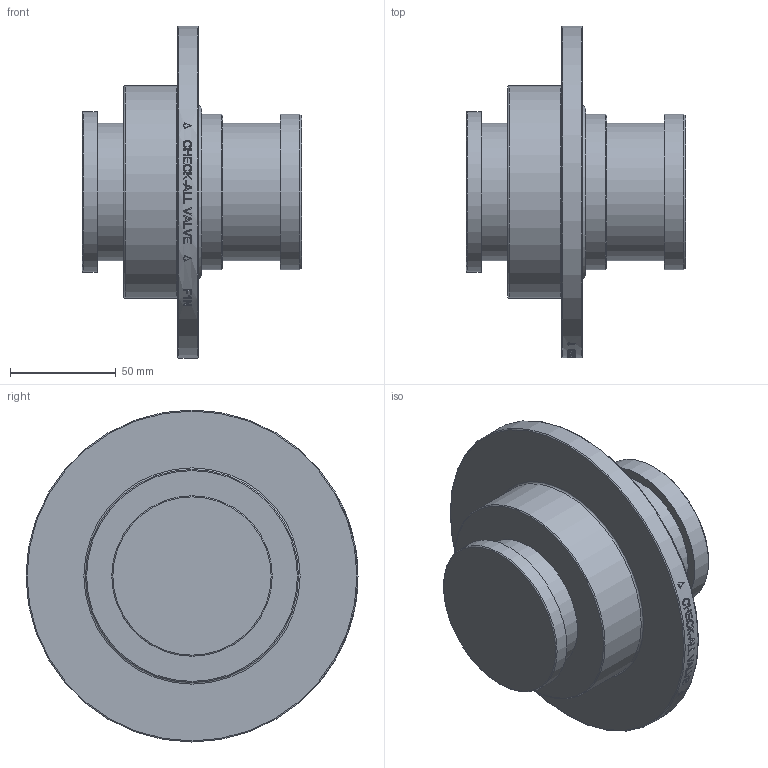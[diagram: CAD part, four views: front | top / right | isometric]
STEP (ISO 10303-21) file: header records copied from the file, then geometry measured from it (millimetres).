
FILE_DESCRIPTION( ( 'Unknown' ), '1' );
FILE_NAME( 'Y:/ENGR/3D Solid Edge Models/F1/F1 STEP/F1N.stp', 'Unknown', ( 'Unknown' ), ( 'Unknown' ), 'PSStep 14.0', 'Unknown', ' ' );
FILE_SCHEMA( ( 'AUTOMOTIVE_DESIGN { 1 0 10303 214 1 1 1 1 }' ) );
Length unit declared in the file: millimetre
Products named in the file (1): 1
Bounding box: 103.76 x 157.18 x 157.18 mm (x, y, z)
Volume: 649140 mm3; surface area: 70060 mm2
Topology: 1 solids, 1 shells, 216 faces, 545 edges, 361 vertices
Faces by surface type: plane 133, bspline 45, cylinder 30, torus 5, cone 3
Full cylindrical faces by diameter (mm): 65.024 x2, 73.787 x2, 75.946 x1, 100.813 x1, 157.175 x1
Entity records: 9624 total; most frequent: CARTESIAN_POINT 3856, ORIENTED_EDGE 1060, EDGE_CURVE 530, B_SPLINE_CURVE_WITH_KNOTS 507, DIRECTION 390, VERTEX_POINT 361, EDGE_LOOP 261, FACE_OUTER_BOUND 228
